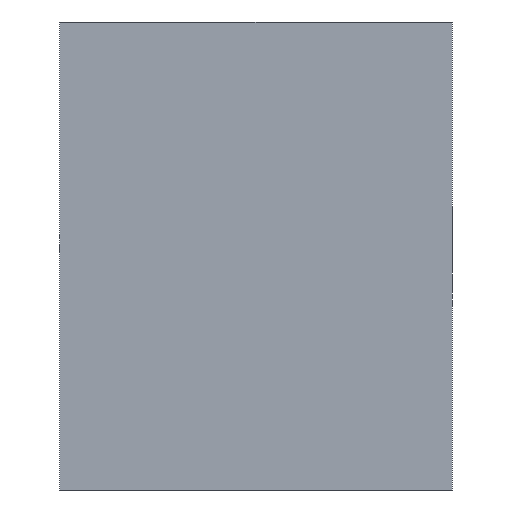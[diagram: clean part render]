
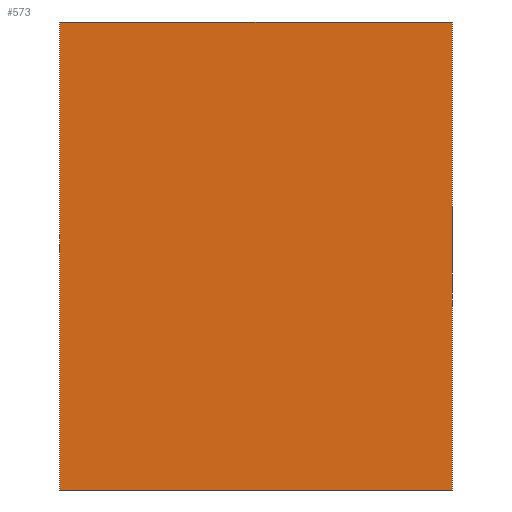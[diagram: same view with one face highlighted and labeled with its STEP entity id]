
A CAD part, left-side view. The second image highlights one B-rep face of the part: STEP entity #573.
In plain terms, the highlighted planar face has unit normal (-1, 0, 0).
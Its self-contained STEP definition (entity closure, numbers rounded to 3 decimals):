
#37 = DIRECTION ( 'NONE',  ( 0., 0., -1. ) ) ;
#83 = EDGE_CURVE ( 'NONE', #260, #292, #615, .T. ) ;
#120 = DIRECTION ( 'NONE',  ( 0., -1., 0. ) ) ;
#135 = LINE ( 'NONE', #282, #513 ) ;
#140 = CARTESIAN_POINT ( 'NONE',  ( 0., -8., -9.55 ) ) ;
#165 = ORIENTED_EDGE ( 'NONE', *, *, #358, .F. ) ;
#186 = FACE_OUTER_BOUND ( 'NONE', #270, .T. ) ;
#189 = CARTESIAN_POINT ( 'NONE',  ( 0., -8., 9.55 ) ) ;
#190 = CARTESIAN_POINT ( 'NONE',  ( 0., 8., -9.55 ) ) ;
#211 = EDGE_CURVE ( 'NONE', #502, #260, #390, .T. ) ;
#214 = ORIENTED_EDGE ( 'NONE', *, *, #501, .F. ) ;
#260 = VERTEX_POINT ( 'NONE', #190 ) ;
#270 = EDGE_LOOP ( 'NONE', ( #417, #214, #165, #357 ) ) ;
#271 = DIRECTION ( 'NONE',  ( 0., -1., 0. ) ) ;
#277 = DIRECTION ( 'NONE',  ( 0., 0., -1. ) ) ;
#282 = CARTESIAN_POINT ( 'NONE',  ( 0., -8., 9.55 ) ) ;
#292 = VERTEX_POINT ( 'NONE', #140 ) ;
#329 = VECTOR ( 'NONE', #37, 1000. ) ;
#333 = PLANE ( 'NONE',  #584 ) ;
#342 = CARTESIAN_POINT ( 'NONE',  ( 0., 8., 9.55 ) ) ;
#357 = ORIENTED_EDGE ( 'NONE', *, *, #211, .T. ) ;
#358 = EDGE_CURVE ( 'NONE', #502, #583, #424, .T. ) ;
#390 = LINE ( 'NONE', #527, #329 ) ;
#397 = VECTOR ( 'NONE', #271, 1000. ) ;
#417 = ORIENTED_EDGE ( 'NONE', *, *, #83, .T. ) ;
#424 = LINE ( 'NONE', #612, #428 ) ;
#428 = VECTOR ( 'NONE', #120, 1000. ) ;
#501 = EDGE_CURVE ( 'NONE', #583, #292, #135, .T. ) ;
#502 = VERTEX_POINT ( 'NONE', #342 ) ;
#513 = VECTOR ( 'NONE', #277, 1000. ) ;
#527 = CARTESIAN_POINT ( 'NONE',  ( 0., 8., 9.55 ) ) ;
#568 = DIRECTION ( 'NONE',  ( 0., 0., -1. ) ) ;
#573 = ADVANCED_FACE ( 'NONE', ( #186 ), #333, .F. ) ;
#574 = DIRECTION ( 'NONE',  ( 1., 0., 0. ) ) ;
#583 = VERTEX_POINT ( 'NONE', #189 ) ;
#584 = AXIS2_PLACEMENT_3D ( 'NONE', #616, #574, #568 ) ;
#600 = CARTESIAN_POINT ( 'NONE',  ( 0., 8., -9.55 ) ) ;
#612 = CARTESIAN_POINT ( 'NONE',  ( 0., 8., 9.55 ) ) ;
#615 = LINE ( 'NONE', #600, #397 ) ;
#616 = CARTESIAN_POINT ( 'NONE',  ( 0., 0., 0. ) ) ;
